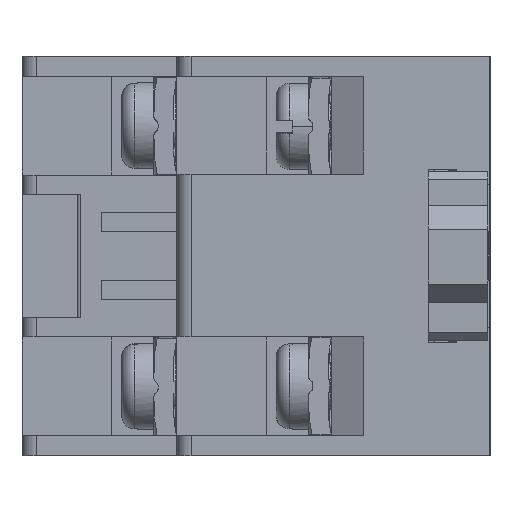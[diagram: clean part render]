
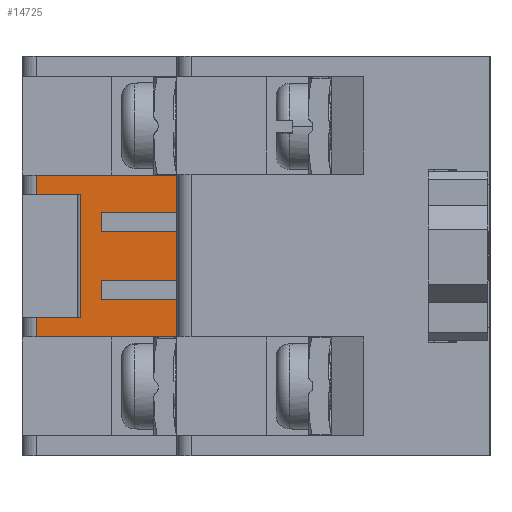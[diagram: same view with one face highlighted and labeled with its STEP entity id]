
A CAD part, left-side view. The second image highlights one B-rep face of the part: STEP entity #14725.
In plain terms, the highlighted planar face has unit normal (-1, 0, 0).
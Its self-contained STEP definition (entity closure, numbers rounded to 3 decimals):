
#514 = ORIENTED_EDGE ( 'NONE', *, *, #15459, .T. ) ;
#540 = VECTOR ( 'NONE', #45444, 1000. ) ;
#1421 = VECTOR ( 'NONE', #50118, 1000. ) ;
#2418 = CARTESIAN_POINT ( 'NONE',  ( -21.755, 28.757, 12.35 ) ) ;
#2860 = EDGE_CURVE ( 'NONE', #49683, #39984, #17449, .T. ) ;
#3040 = CARTESIAN_POINT ( 'NONE',  ( -21.755, 27.457, -2.7 ) ) ;
#3218 = VERTEX_POINT ( 'NONE', #39590 ) ;
#4330 = VERTEX_POINT ( 'NONE', #41368 ) ;
#4705 = VERTEX_POINT ( 'NONE', #47919 ) ;
#4756 = CARTESIAN_POINT ( 'NONE',  ( -21.755, 11.461, -3.8 ) ) ;
#5003 = LINE ( 'NONE', #22216, #14128 ) ;
#6258 = DIRECTION ( 'NONE',  ( 0., -1., 0. ) ) ;
#6781 = DIRECTION ( 'NONE',  ( 0., -1., 0. ) ) ;
#7171 = CARTESIAN_POINT ( 'NONE',  ( -21.755, 22.807, -12.35 ) ) ;
#7585 = CARTESIAN_POINT ( 'NONE',  ( -21.755, 27.457, 2.7 ) ) ;
#8316 = CARTESIAN_POINT ( 'NONE',  ( -21.755, 20.807, 2.2 ) ) ;
#8656 = DIRECTION ( 'NONE',  ( 0., 1., 0. ) ) ;
#9873 = CARTESIAN_POINT ( 'NONE',  ( -21.755, 22.807, -12.35 ) ) ;
#10096 = DIRECTION ( 'NONE',  ( 0., 1., 0. ) ) ;
#10181 = VERTEX_POINT ( 'NONE', #13694 ) ;
#10836 = DIRECTION ( 'NONE',  ( 0., -1., 0. ) ) ;
#10863 = EDGE_CURVE ( 'NONE', #50200, #13975, #21549, .T. ) ;
#11619 = ORIENTED_EDGE ( 'NONE', *, *, #15705, .F. ) ;
#11647 = EDGE_CURVE ( 'NONE', #31442, #39984, #35923, .T. ) ;
#12268 = DIRECTION ( 'NONE',  ( 0., 0., -1. ) ) ;
#12572 = EDGE_LOOP ( 'NONE', ( #26680, #13202, #30903, #19344, #45412, #48233, #25860, #22962, #50181, #16312, #26125, #13422, #28720, #11619, #514, #26646 ) ) ;
#13202 = ORIENTED_EDGE ( 'NONE', *, *, #39199, .F. ) ;
#13422 = ORIENTED_EDGE ( 'NONE', *, *, #16378, .F. ) ;
#13694 = CARTESIAN_POINT ( 'NONE',  ( -21.755, 27.457, -2.7 ) ) ;
#13788 = DIRECTION ( 'NONE',  ( 0., 0., -1. ) ) ;
#13849 = LINE ( 'NONE', #2418, #43438 ) ;
#13975 = VERTEX_POINT ( 'NONE', #37862 ) ;
#14116 = CARTESIAN_POINT ( 'NONE',  ( -21.755, 31.457, -3.8 ) ) ;
#14128 = VECTOR ( 'NONE', #6781, 1000. ) ;
#14327 = VECTOR ( 'NONE', #46017, 1000. ) ;
#14725 = ADVANCED_FACE ( 'NONE', ( #28447 ), #39620, .F. ) ;
#15235 = DIRECTION ( 'NONE',  ( 0., 1., 0. ) ) ;
#15459 = EDGE_CURVE ( 'NONE', #22969, #47661, #31362, .T. ) ;
#15496 = CARTESIAN_POINT ( 'NONE',  ( -21.755, 31.457, 3.8 ) ) ;
#15705 = EDGE_CURVE ( 'NONE', #22969, #10181, #40946, .T. ) ;
#16206 = CARTESIAN_POINT ( 'NONE',  ( -21.755, 27.457, 2.7 ) ) ;
#16312 = ORIENTED_EDGE ( 'NONE', *, *, #11647, .T. ) ;
#16378 = EDGE_CURVE ( 'NONE', #3218, #49683, #45117, .T. ) ;
#16529 = DIRECTION ( 'NONE',  ( 0., 1., 0. ) ) ;
#16603 = EDGE_CURVE ( 'NONE', #47480, #31442, #46917, .T. ) ;
#17449 = LINE ( 'NONE', #17728, #36744 ) ;
#17728 = CARTESIAN_POINT ( 'NONE',  ( -21.755, 22.807, -5. ) ) ;
#18366 = EDGE_CURVE ( 'NONE', #4330, #4705, #5003, .T. ) ;
#18475 = LINE ( 'NONE', #8316, #37778 ) ;
#18482 = CARTESIAN_POINT ( 'NONE',  ( -21.755, 31.457, -5. ) ) ;
#19344 = ORIENTED_EDGE ( 'NONE', *, *, #45998, .F. ) ;
#20079 = LINE ( 'NONE', #42239, #39366 ) ;
#20404 = CARTESIAN_POINT ( 'NONE',  ( -21.755, 28.757, -3.8 ) ) ;
#20458 = VECTOR ( 'NONE', #39037, 1000. ) ;
#20478 = LINE ( 'NONE', #9873, #39756 ) ;
#21549 = LINE ( 'NONE', #15496, #1421 ) ;
#22090 = DIRECTION ( 'NONE',  ( 0., 0., -1. ) ) ;
#22216 = CARTESIAN_POINT ( 'NONE',  ( -21.755, 27.457, 2.2 ) ) ;
#22962 = ORIENTED_EDGE ( 'NONE', *, *, #23919, .T. ) ;
#22969 = VERTEX_POINT ( 'NONE', #35679 ) ;
#23394 = CARTESIAN_POINT ( 'NONE',  ( -21.755, 22.807, 5. ) ) ;
#23919 = EDGE_CURVE ( 'NONE', #44464, #47480, #13849, .T. ) ;
#24493 = VECTOR ( 'NONE', #42360, 1000. ) ;
#25860 = ORIENTED_EDGE ( 'NONE', *, *, #29338, .F. ) ;
#26125 = ORIENTED_EDGE ( 'NONE', *, *, #2860, .F. ) ;
#26317 = CARTESIAN_POINT ( 'NONE',  ( -21.755, 20.807, -2.2 ) ) ;
#26440 = VECTOR ( 'NONE', #8656, 1000. ) ;
#26646 = ORIENTED_EDGE ( 'NONE', *, *, #47857, .F. ) ;
#26680 = ORIENTED_EDGE ( 'NONE', *, *, #18366, .F. ) ;
#28051 = DIRECTION ( 'NONE',  ( 1., 0., 0. ) ) ;
#28447 = FACE_OUTER_BOUND ( 'NONE', #12572, .T. ) ;
#28720 = ORIENTED_EDGE ( 'NONE', *, *, #38399, .F. ) ;
#29338 = EDGE_CURVE ( 'NONE', #44464, #13975, #20079, .T. ) ;
#29938 = CARTESIAN_POINT ( 'NONE',  ( -21.755, 22.807, 5. ) ) ;
#30769 = CARTESIAN_POINT ( 'NONE',  ( -21.755, 31.457, -5. ) ) ;
#30903 = ORIENTED_EDGE ( 'NONE', *, *, #48135, .T. ) ;
#31350 = DIRECTION ( 'NONE',  ( 0., 0., -1. ) ) ;
#31362 = LINE ( 'NONE', #33999, #41571 ) ;
#31442 = VERTEX_POINT ( 'NONE', #14116 ) ;
#31481 = CARTESIAN_POINT ( 'NONE',  ( -21.755, 27.457, -2.2 ) ) ;
#32083 = CARTESIAN_POINT ( 'NONE',  ( -21.755, 31.457, 5. ) ) ;
#33353 = VERTEX_POINT ( 'NONE', #23394 ) ;
#33781 = DIRECTION ( 'NONE',  ( 0., 1., 0. ) ) ;
#33999 = CARTESIAN_POINT ( 'NONE',  ( -21.755, 27.457, -2.2 ) ) ;
#34476 = CARTESIAN_POINT ( 'NONE',  ( -21.755, 28.757, 3.8 ) ) ;
#35679 = CARTESIAN_POINT ( 'NONE',  ( -21.755, 27.457, -2.2 ) ) ;
#35744 = CARTESIAN_POINT ( 'NONE',  ( -21.755, 19.957, 12.35 ) ) ;
#35923 = LINE ( 'NONE', #30769, #24493 ) ;
#35931 = VECTOR ( 'NONE', #6258, 1000. ) ;
#36534 = VECTOR ( 'NONE', #33781, 1000. ) ;
#36744 = VECTOR ( 'NONE', #10096, 1000. ) ;
#37233 = CARTESIAN_POINT ( 'NONE',  ( -21.755, 22.807, 2.7 ) ) ;
#37778 = VECTOR ( 'NONE', #31350, 1000. ) ;
#37862 = CARTESIAN_POINT ( 'NONE',  ( -21.755, 31.457, 3.8 ) ) ;
#38399 = EDGE_CURVE ( 'NONE', #10181, #3218, #41664, .T. ) ;
#39037 = DIRECTION ( 'NONE',  ( 0., 0., -1. ) ) ;
#39199 = EDGE_CURVE ( 'NONE', #46775, #4330, #50094, .T. ) ;
#39366 = VECTOR ( 'NONE', #15235, 1000. ) ;
#39590 = CARTESIAN_POINT ( 'NONE',  ( -21.755, 22.807, -2.7 ) ) ;
#39620 = PLANE ( 'NONE',  #43372 ) ;
#39756 = VECTOR ( 'NONE', #13788, 1000. ) ;
#39782 = VECTOR ( 'NONE', #12268, 1000. ) ;
#39984 = VERTEX_POINT ( 'NONE', #18482 ) ;
#40034 = CARTESIAN_POINT ( 'NONE',  ( -21.755, 22.807, -5. ) ) ;
#40946 = LINE ( 'NONE', #31481, #20458 ) ;
#41255 = VERTEX_POINT ( 'NONE', #37233 ) ;
#41368 = CARTESIAN_POINT ( 'NONE',  ( -21.755, 27.457, 2.2 ) ) ;
#41571 = VECTOR ( 'NONE', #10836, 1000. ) ;
#41664 = LINE ( 'NONE', #3040, #540 ) ;
#42239 = CARTESIAN_POINT ( 'NONE',  ( -21.755, 11.461, 3.8 ) ) ;
#42360 = DIRECTION ( 'NONE',  ( 0., 0., -1. ) ) ;
#43372 = AXIS2_PLACEMENT_3D ( 'NONE', #35744, #28051, #16529 ) ;
#43438 = VECTOR ( 'NONE', #22090, 1000. ) ;
#44368 = LINE ( 'NONE', #29938, #36534 ) ;
#44464 = VERTEX_POINT ( 'NONE', #34476 ) ;
#45117 = LINE ( 'NONE', #7171, #14327 ) ;
#45412 = ORIENTED_EDGE ( 'NONE', *, *, #48372, .T. ) ;
#45444 = DIRECTION ( 'NONE',  ( 0., -1., 0. ) ) ;
#45998 = EDGE_CURVE ( 'NONE', #33353, #41255, #20478, .T. ) ;
#46017 = DIRECTION ( 'NONE',  ( 0., 0., -1. ) ) ;
#46207 = LINE ( 'NONE', #48844, #35931 ) ;
#46775 = VERTEX_POINT ( 'NONE', #7585 ) ;
#46917 = LINE ( 'NONE', #4756, #26440 ) ;
#47480 = VERTEX_POINT ( 'NONE', #20404 ) ;
#47661 = VERTEX_POINT ( 'NONE', #26317 ) ;
#47857 = EDGE_CURVE ( 'NONE', #4705, #47661, #18475, .T. ) ;
#47919 = CARTESIAN_POINT ( 'NONE',  ( -21.755, 20.807, 2.2 ) ) ;
#48135 = EDGE_CURVE ( 'NONE', #46775, #41255, #46207, .T. ) ;
#48233 = ORIENTED_EDGE ( 'NONE', *, *, #10863, .T. ) ;
#48372 = EDGE_CURVE ( 'NONE', #33353, #50200, #44368, .T. ) ;
#48844 = CARTESIAN_POINT ( 'NONE',  ( -21.755, 27.457, 2.7 ) ) ;
#49683 = VERTEX_POINT ( 'NONE', #40034 ) ;
#50094 = LINE ( 'NONE', #16206, #39782 ) ;
#50118 = DIRECTION ( 'NONE',  ( 0., 0., -1. ) ) ;
#50181 = ORIENTED_EDGE ( 'NONE', *, *, #16603, .T. ) ;
#50200 = VERTEX_POINT ( 'NONE', #32083 ) ;
